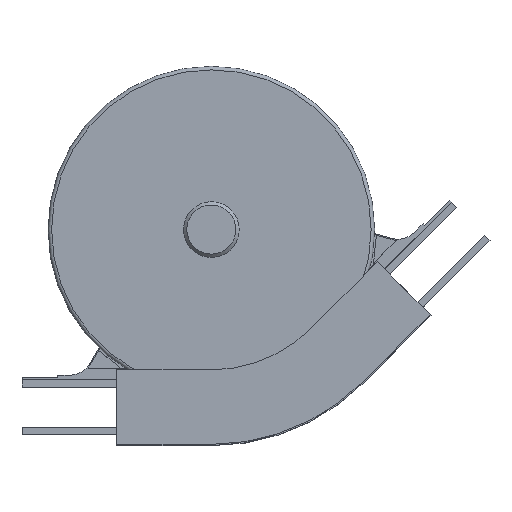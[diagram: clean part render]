
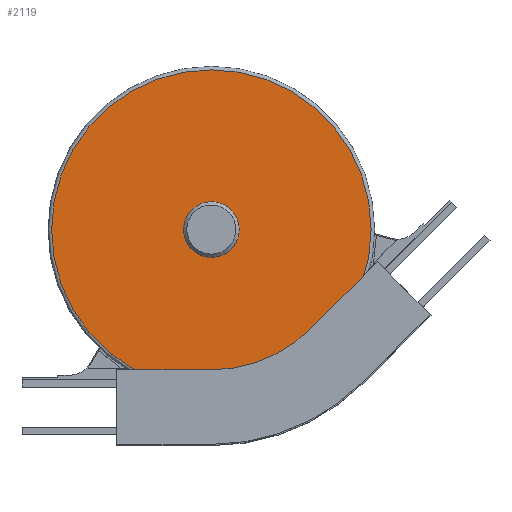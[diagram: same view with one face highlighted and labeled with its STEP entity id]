
A CAD part, top view. The second image highlights one B-rep face of the part: STEP entity #2119.
In plain terms, the highlighted planar face has unit normal (0, 0, 1).
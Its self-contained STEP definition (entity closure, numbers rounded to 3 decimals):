
#44=FACE_BOUND('',#347,.T.);
#83=CIRCLE('',#2281,21.);
#84=CIRCLE('',#2283,135.);
#218=FACE_OUTER_BOUND('',#346,.T.);
#346=EDGE_LOOP('',(#1799));
#347=EDGE_LOOP('',(#1800));
#1027=VERTEX_POINT('',#3369);
#1028=VERTEX_POINT('',#3373);
#1291=EDGE_CURVE('',#1027,#1027,#83,.T.);
#1293=EDGE_CURVE('',#1028,#1028,#84,.T.);
#1799=ORIENTED_EDGE('',*,*,#1293,.F.);
#1800=ORIENTED_EDGE('',*,*,#1291,.T.);
#2008=PLANE('',#2282);
#2119=ADVANCED_FACE('',(#218,#44),#2008,.T.);
#2281=AXIS2_PLACEMENT_3D('',#3370,#2754,#2755);
#2282=AXIS2_PLACEMENT_3D('',#3372,#2757,#2758);
#2283=AXIS2_PLACEMENT_3D('',#3374,#2759,#2760);
#2754=DIRECTION('center_axis',(0.,0.,-1.));
#2755=DIRECTION('ref_axis',(1.,0.,0.));
#2757=DIRECTION('center_axis',(0.,0.,1.));
#2758=DIRECTION('ref_axis',(1.,0.,0.));
#2759=DIRECTION('center_axis',(0.,0.,-1.));
#2760=DIRECTION('ref_axis',(1.,0.,0.));
#3369=CARTESIAN_POINT('',(88.036,130.599,33.5));
#3370=CARTESIAN_POINT('Origin',(80.,150.,33.5));
#3372=CARTESIAN_POINT('Origin',(28.338,274.724,33.5));
#3373=CARTESIAN_POINT('',(215.,150.,33.5));
#3374=CARTESIAN_POINT('Origin',(80.,150.,33.5));
